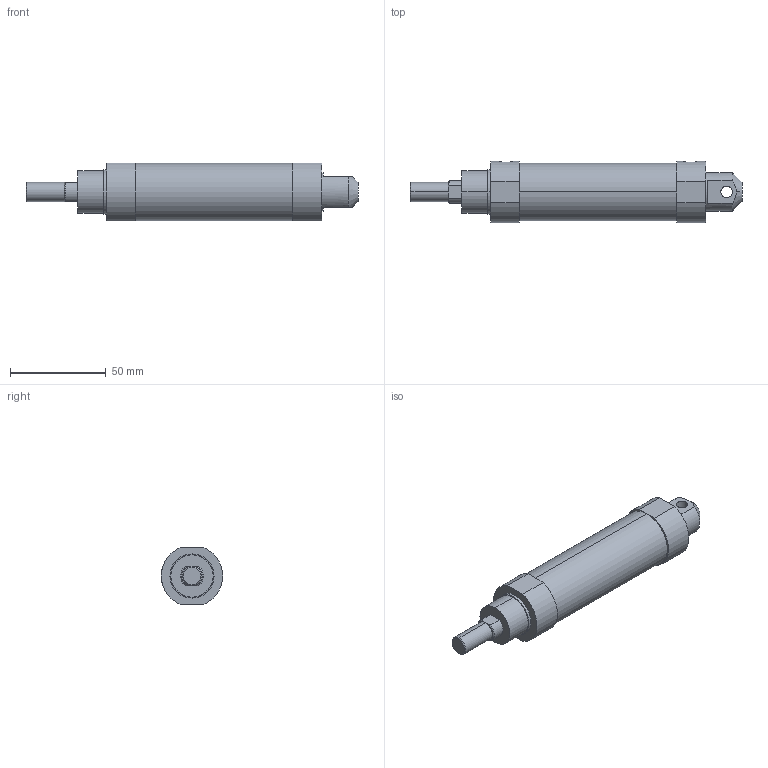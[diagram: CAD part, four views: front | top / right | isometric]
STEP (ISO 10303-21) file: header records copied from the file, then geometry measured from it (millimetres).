
FILE_DESCRIPTION (( 'STEP AP203' ), '1' );
FILE_NAME ('J#2-25-50-C.STEP', '2016-03-08T07:11:09', ( '' ), ( '' ), 'SwSTEP 2.0', 'SolidWorks 2014', '' );
FILE_SCHEMA (( 'CONFIG_CONTROL_DESIGN' ));
Length unit declared in the file: millimetre
Products named in the file (1): J#2-25-50-C
Bounding box: 173 x 32 x 30 mm (x, y, z)
Volume: 92351 mm3; surface area: 16428.6 mm2
Topology: 1 solids, 1 shells, 52 faces, 118 edges, 74 vertices
Faces by surface type: plane 24, cylinder 22, cone 6
Entity records: 1701 total; most frequent: CARTESIAN_POINT 429, DIRECTION 262, ORIENTED_EDGE 236, EDGE_CURVE 118, AXIS2_PLACEMENT_3D 103, VERTEX_POINT 74, EDGE_LOOP 60, VECTOR 56
